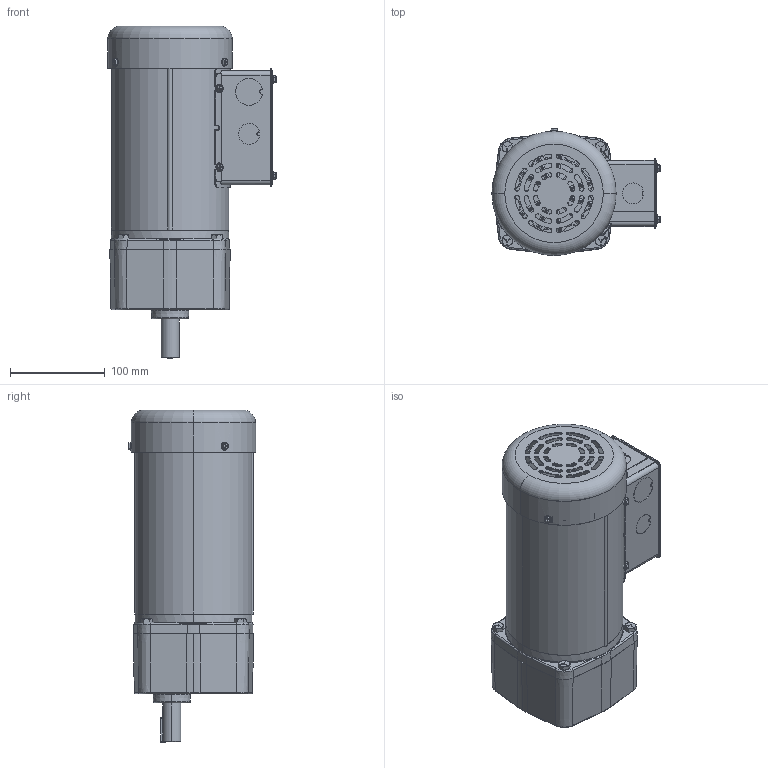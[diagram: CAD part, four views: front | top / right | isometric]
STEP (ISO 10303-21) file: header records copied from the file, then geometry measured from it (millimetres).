
FILE_DESCRIPTION (( 'STEP AP203' ), '1' );
FILE_NAME ('027696-096014_Rev00.STEP', '2017-10-23T06:06:35', ( '' ), ( '' ), 'SwSTEP 2.0', 'SolidWorks 2015', '' );
FILE_SCHEMA (( 'CONFIG_CONTROL_DESIGN' ));
Length unit declared in the file: inch
Products named in the file (1): 027696-096014_Rev00
Bounding box: 177.39 x 134.06 x 350.11 mm (x, y, z)
Volume: 887319.1 mm3; surface area: 524318.1 mm2
Topology: 31 solids, 31 shells, 3632 faces, 8780 edges, 5208 vertices
Faces by surface type: cylinder 915, plane 893, bspline 886, cone 438, torus 396, sphere 104
Entity records: 138212 total; most frequent: CARTESIAN_POINT 60431, ORIENTED_EDGE 17284, DIRECTION 15128, EDGE_CURVE 8642, AXIS2_PLACEMENT_3D 6299, VERTEX_POINT 5198, EDGE_LOOP 3892, FACE_OUTER_BOUND 3632
